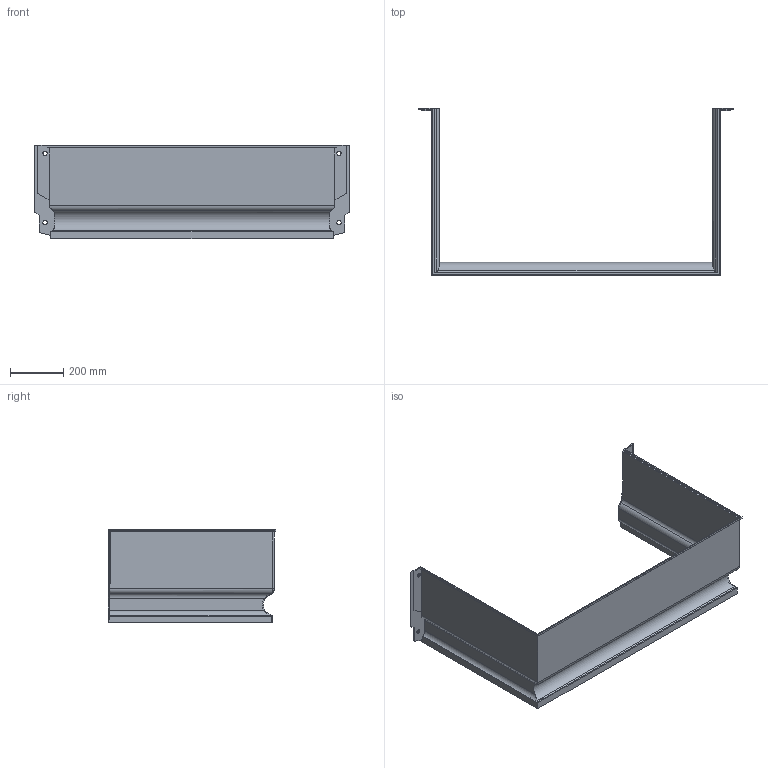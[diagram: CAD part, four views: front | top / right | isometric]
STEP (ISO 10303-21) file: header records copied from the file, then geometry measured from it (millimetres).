
FILE_DESCRIPTION(/* description */ (''),/* implementation_level */ '2;1');
FILE_NAME(/* name */ 'Q:\sge-bs-neu-2008\Marketing\CAD Zeichnungen\3D-CAD-Daten\3D Daten Website\- MEA Multinorm Aufsatz Kunststofflichtschacht_\Step\MEA_MULTINORM_Aufsatz_100x35x60.stp',/* time_stamp */ '2019-02-14T13:20:41+01:00',/* author */ ('avgrahammj'),/* organization */ (''),/* preprocessor_version */ 'ST-DEVELOPER v16.1',/* originating_system */ 'Autodesk Inventor 2016',/* authorisation */ '');
FILE_SCHEMA (('AUTOMOTIVE_DESIGN { 1 0 10303 214 3 1 1 }'));
Length unit declared in the file: centimetre
Products named in the file (1): MEA_MULTINORM_Aufsatz_100x35x60
Bounding box: 1180 x 626 x 350 mm (x, y, z)
Volume: 3581871.1 mm3; surface area: 1813717 mm2
Topology: 1 solids, 1 shells, 86 faces, 249 edges, 165 vertices
Faces by surface type: plane 58, cylinder 28
Full cylindrical faces by diameter (mm): 16 x4
Entity records: 2975 total; most frequent: CARTESIAN_POINT 695, ORIENTED_EDGE 484, DIRECTION 438, EDGE_CURVE 242, LINE 180, VECTOR 180, VERTEX_POINT 162, AXIS2_PLACEMENT_3D 129
